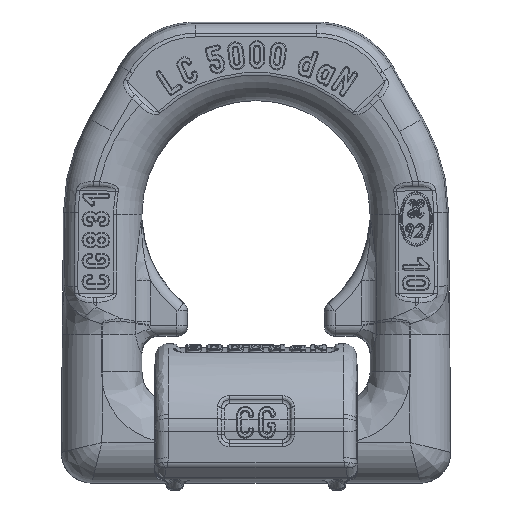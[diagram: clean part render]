
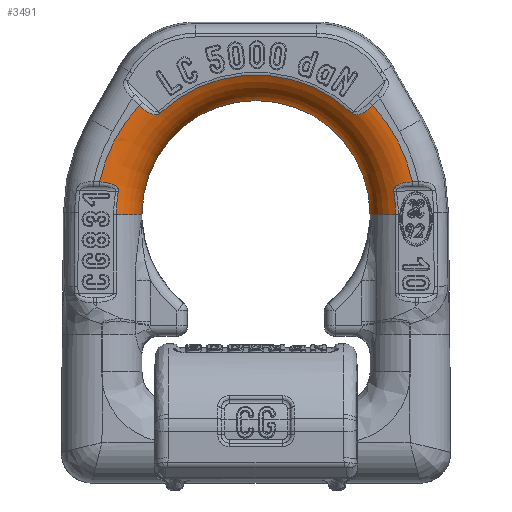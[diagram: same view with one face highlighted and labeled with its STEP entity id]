
A CAD part, front view. The second image highlights one B-rep face of the part: STEP entity #3491.
In plain terms, the highlighted toroidal (fillet/blend) face has major radius 31.522 mm and minor radius 9 mm.
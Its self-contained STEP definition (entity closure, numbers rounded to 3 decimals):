
#1251=TOROIDAL_SURFACE('',#27873,31.522,9.);
#1452=FACE_OUTER_BOUND('',#6757,.T.);
#3491=ADVANCED_FACE('',(#1452),#1251,.T.);
#5675=B_SPLINE_CURVE_WITH_KNOTS('',3,(#38829,#38830,#38831,#38832,#38833,
#38834,#38835,#38836),.UNSPECIFIED.,.F.,.F.,(4,2,2,4),(0.,0.25,0.5,1.),.UNSPECIFIED.);
#5676=B_SPLINE_CURVE_WITH_KNOTS('',3,(#38837,#38838,#38839,#38840,#38841,
#38842,#38843,#38844),.UNSPECIFIED.,.F.,.F.,(4,2,2,4),(0.,0.5,
0.75,1.),.UNSPECIFIED.);
#5677=B_SPLINE_CURVE_WITH_KNOTS('',3,(#38848,#38849,#38850,#38851,#38852,
#38853,#38854,#38855),.UNSPECIFIED.,.F.,.F.,(4,2,2,4),(0.,0.25,0.5,
1.),.UNSPECIFIED.);
#5678=B_SPLINE_CURVE_WITH_KNOTS('',3,(#38856,#38857,#38858,#38859,#38860,
#38861,#38862,#38863,#38864,#38865,#38866,#38867,#38868,#38869,#38870,#38871,
#38872,#38873,#38874),.UNSPECIFIED.,.F.,.F.,(4,3,3,3,3,3,4),(0.,0.365,
0.616,0.762,0.846,0.924,
1.),.UNSPECIFIED.);
#6757=EDGE_LOOP('',(#11878,#11879,#11880,#11881,#11882,#11883,#11884,#11885,
#11886,#11887,#11888,#11889));
#11878=ORIENTED_EDGE('',*,*,#22495,.T.);
#11879=ORIENTED_EDGE('',*,*,#22496,.T.);
#11880=ORIENTED_EDGE('',*,*,#22485,.F.);
#11881=ORIENTED_EDGE('',*,*,#22497,.T.);
#11882=ORIENTED_EDGE('',*,*,#22498,.T.);
#11883=ORIENTED_EDGE('',*,*,#22499,.T.);
#11884=ORIENTED_EDGE('',*,*,#22490,.F.);
#11885=ORIENTED_EDGE('',*,*,#22500,.T.);
#11886=ORIENTED_EDGE('',*,*,#22501,.T.);
#11887=ORIENTED_EDGE('',*,*,#22502,.T.);
#11888=ORIENTED_EDGE('',*,*,#22503,.F.);
#11889=ORIENTED_EDGE('',*,*,#22504,.F.);
#20072=VERTEX_POINT('',#38805);
#20073=VERTEX_POINT('',#38806);
#20077=VERTEX_POINT('',#38816);
#20078=VERTEX_POINT('',#38817);
#20082=VERTEX_POINT('',#38827);
#20083=VERTEX_POINT('',#38828);
#20084=VERTEX_POINT('',#38845);
#20085=VERTEX_POINT('',#38847);
#20086=VERTEX_POINT('',#38875);
#20087=VERTEX_POINT('',#38877);
#20088=VERTEX_POINT('',#38879);
#20089=VERTEX_POINT('',#38881);
#22485=EDGE_CURVE('',#20072,#20073,#26373,.T.);
#22490=EDGE_CURVE('',#20077,#20078,#26375,.T.);
#22495=EDGE_CURVE('',#20082,#20083,#26377,.T.);
#22496=EDGE_CURVE('',#20083,#20073,#5675,.T.);
#22497=EDGE_CURVE('',#20072,#20084,#5676,.T.);
#22498=EDGE_CURVE('',#20084,#20085,#26378,.T.);
#22499=EDGE_CURVE('',#20085,#20078,#5677,.T.);
#22500=EDGE_CURVE('',#20077,#20086,#5678,.T.);
#22501=EDGE_CURVE('',#20086,#20087,#26379,.T.);
#22502=EDGE_CURVE('',#20087,#20088,#26380,.T.);
#22503=EDGE_CURVE('',#20089,#20088,#26381,.T.);
#22504=EDGE_CURVE('',#20082,#20089,#26382,.T.);
#26373=CIRCLE('',#27861,31.522);
#26375=CIRCLE('',#27864,31.522);
#26377=CIRCLE('',#27867,27.552);
#26378=CIRCLE('',#27868,27.552);
#26379=CIRCLE('',#27869,27.552);
#26380=CIRCLE('',#27870,9.);
#26381=CIRCLE('',#27871,22.544);
#26382=CIRCLE('',#27872,9.);
#27861=AXIS2_PLACEMENT_3D('',#38804,#31115,#31116);
#27864=AXIS2_PLACEMENT_3D('',#38815,#31124,#31125);
#27867=AXIS2_PLACEMENT_3D('',#38826,#31133,#31134);
#27868=AXIS2_PLACEMENT_3D('',#38846,#31135,#31136);
#27869=AXIS2_PLACEMENT_3D('',#38876,#31137,#31138);
#27870=AXIS2_PLACEMENT_3D('',#38878,#31139,#31140);
#27871=AXIS2_PLACEMENT_3D('',#38880,#31141,#31142);
#27872=AXIS2_PLACEMENT_3D('',#38882,#31143,#31144);
#27873=AXIS2_PLACEMENT_3D('',#38883,#31145,#31146);
#31115=DIRECTION('',(0.,1.,0.));
#31116=DIRECTION('',(1.,0.,0.));
#31124=DIRECTION('',(0.,1.,0.));
#31125=DIRECTION('',(1.,0.,0.));
#31133=DIRECTION('',(0.,-1.,0.));
#31134=DIRECTION('',(-1.,0.,0.));
#31135=DIRECTION('',(0.,-1.,0.));
#31136=DIRECTION('',(-1.,0.,0.));
#31137=DIRECTION('',(0.,-1.,0.));
#31138=DIRECTION('',(-1.,0.,0.));
#31139=DIRECTION('',(0.,0.,1.));
#31140=DIRECTION('',(0.,-1.,0.));
#31141=DIRECTION('',(0.,-1.,0.));
#31142=DIRECTION('',(-1.,0.,0.));
#31143=DIRECTION('',(0.,0.,-1.));
#31144=DIRECTION('',(0.,1.,0.));
#31145=DIRECTION('',(0.,-1.,0.));
#31146=DIRECTION('',(1.,0.,0.));
#38804=CARTESIAN_POINT('',(0.,-9.,45.));
#38805=CARTESIAN_POINT('',(23.021,-9.,66.533));
#38806=CARTESIAN_POINT('',(30.855,-9.,51.452));
#38815=CARTESIAN_POINT('',(0.,-9.,45.));
#38816=CARTESIAN_POINT('',(-30.855,-9.,51.452));
#38817=CARTESIAN_POINT('',(-23.021,-9.,66.533));
#38826=CARTESIAN_POINT('',(0.,-8.077,45.));
#38827=CARTESIAN_POINT('',(27.552,-8.077,45.));
#38828=CARTESIAN_POINT('',(27.174,-8.077,49.546));
#38829=CARTESIAN_POINT('',(27.174,-8.077,49.546));
#38830=CARTESIAN_POINT('',(27.108,-8.077,49.94));
#38831=CARTESIAN_POINT('',(27.303,-8.209,50.318));
#38832=CARTESIAN_POINT('',(27.861,-8.471,50.817));
#38833=CARTESIAN_POINT('',(28.207,-8.598,50.975));
#38834=CARTESIAN_POINT('',(29.293,-8.9,51.336));
#38835=CARTESIAN_POINT('',(30.067,-9.,51.424));
#38836=CARTESIAN_POINT('',(30.855,-9.,51.452));
#38837=CARTESIAN_POINT('',(23.021,-9.,66.533));
#38838=CARTESIAN_POINT('',(22.45,-9.,65.965));
#38839=CARTESIAN_POINT('',(21.835,-8.89,65.449));
#38840=CARTESIAN_POINT('',(20.807,-8.582,64.89));
#38841=CARTESIAN_POINT('',(20.448,-8.456,64.742));
#38842=CARTESIAN_POINT('',(19.691,-8.206,64.64));
#38843=CARTESIAN_POINT('',(19.265,-8.077,64.701));
#38844=CARTESIAN_POINT('',(18.968,-8.077,64.983));
#38845=CARTESIAN_POINT('',(18.968,-8.077,64.983));
#38846=CARTESIAN_POINT('',(0.,-8.077,45.));
#38847=CARTESIAN_POINT('',(-18.968,-8.077,64.983));
#38848=CARTESIAN_POINT('',(-18.968,-8.077,64.983));
#38849=CARTESIAN_POINT('',(-19.265,-8.077,64.701));
#38850=CARTESIAN_POINT('',(-19.693,-8.206,64.64));
#38851=CARTESIAN_POINT('',(-20.45,-8.457,64.743));
#38852=CARTESIAN_POINT('',(-20.811,-8.584,64.892));
#38853=CARTESIAN_POINT('',(-21.838,-8.89,65.451));
#38854=CARTESIAN_POINT('',(-22.449,-9.,65.964));
#38855=CARTESIAN_POINT('',(-23.021,-9.,66.533));
#38856=CARTESIAN_POINT('',(-30.855,-9.,51.452));
#38857=CARTESIAN_POINT('',(-30.284,-9.,51.432));
#38858=CARTESIAN_POINT('',(-29.708,-8.946,51.373));
#38859=CARTESIAN_POINT('',(-29.16,-8.838,51.255));
#38860=CARTESIAN_POINT('',(-28.784,-8.764,51.173));
#38861=CARTESIAN_POINT('',(-28.414,-8.663,51.063));
#38862=CARTESIAN_POINT('',(-28.08,-8.544,50.896));
#38863=CARTESIAN_POINT('',(-27.885,-8.474,50.799));
#38864=CARTESIAN_POINT('',(-27.699,-8.396,50.68));
#38865=CARTESIAN_POINT('',(-27.542,-8.321,50.531));
#38866=CARTESIAN_POINT('',(-27.451,-8.277,50.444));
#38867=CARTESIAN_POINT('',(-27.369,-8.234,50.346));
#38868=CARTESIAN_POINT('',(-27.305,-8.196,50.236));
#38869=CARTESIAN_POINT('',(-27.246,-8.16,50.134));
#38870=CARTESIAN_POINT('',(-27.2,-8.129,50.019));
#38871=CARTESIAN_POINT('',(-27.178,-8.108,49.9));
#38872=CARTESIAN_POINT('',(-27.156,-8.088,49.785));
#38873=CARTESIAN_POINT('',(-27.154,-8.077,49.663));
#38874=CARTESIAN_POINT('',(-27.174,-8.077,49.546));
#38875=CARTESIAN_POINT('',(-27.174,-8.077,49.546));
#38876=CARTESIAN_POINT('',(0.,-8.077,45.));
#38877=CARTESIAN_POINT('',(-27.552,-8.077,45.));
#38878=CARTESIAN_POINT('',(-31.522,0.,45.));
#38879=CARTESIAN_POINT('',(-22.544,-0.628,45.));
#38880=CARTESIAN_POINT('',(0.,-0.628,45.));
#38881=CARTESIAN_POINT('',(22.544,-0.628,45.));
#38882=CARTESIAN_POINT('',(31.522,0.,45.));
#38883=CARTESIAN_POINT('',(0.,0.,45.));
